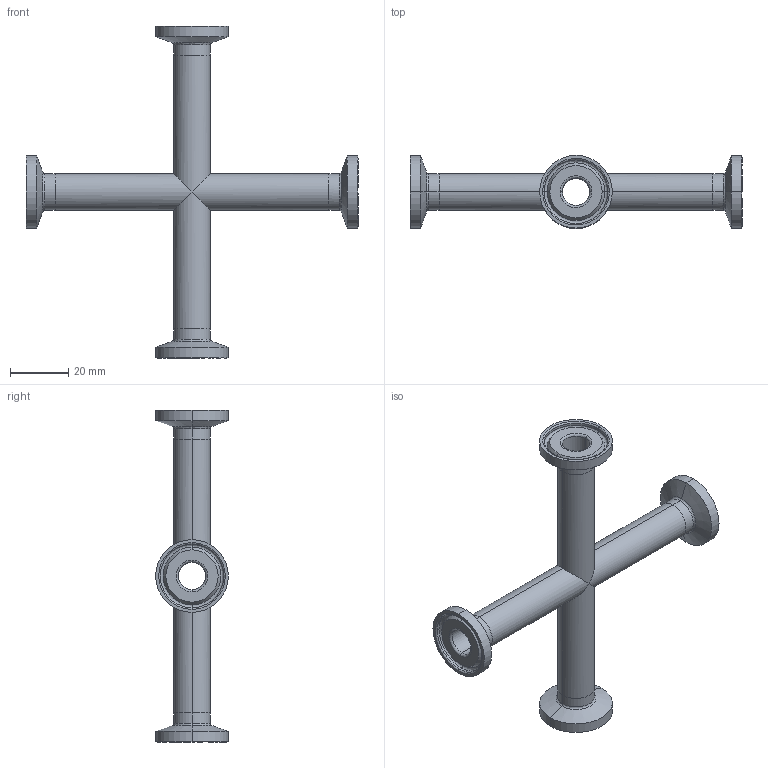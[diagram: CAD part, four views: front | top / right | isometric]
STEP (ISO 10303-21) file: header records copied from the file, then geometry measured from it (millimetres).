
FILE_DESCRIPTION (( 'STEP AP214' ), '1' );
FILE_NAME ('TEG96L.5-...STEP', '2016-05-22T05:32:31', ( 'eran' ), ( '' ), 'SwSTEP 2.0', 'SolidWorks 2016', '' );
FILE_SCHEMA (( 'AUTOMOTIVE_DESIGN' ));
Length unit declared in the file: millimetre
Products named in the file (1): TEG96L.5-..
Bounding box: 114.3 x 24.99 x 114.3 mm (x, y, z)
Volume: 17554.7 mm3; surface area: 19221.2 mm2
Topology: 5 solids, 5 shells, 112 faces, 244 edges, 144 vertices
Faces by surface type: cylinder 48, bspline 32, plane 16, cone 16
Entity records: 3518 total; most frequent: CARTESIAN_POINT 1077, DIRECTION 522, ORIENTED_EDGE 488, EDGE_CURVE 244, AXIS2_PLACEMENT_3D 229, CIRCLE 148, VERTEX_POINT 144, EDGE_LOOP 128
